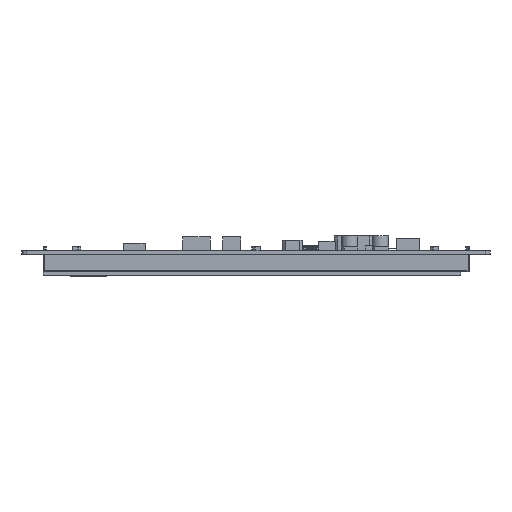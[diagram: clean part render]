
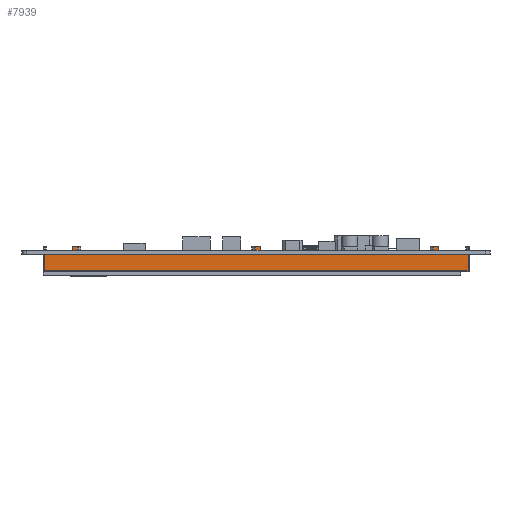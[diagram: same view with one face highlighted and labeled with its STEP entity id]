
A CAD part, left-side view. The second image highlights one B-rep face of the part: STEP entity #7939.
In plain terms, the highlighted planar face has unit normal (-1, 0, 0).
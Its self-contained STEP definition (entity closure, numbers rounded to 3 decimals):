
#5029=PLANE('',#65919);
#7939=ADVANCED_FACE('',(#11375),#5029,.T.);
#11375=FACE_OUTER_BOUND('',#14484,.T.);
#14484=EDGE_LOOP('',(#30043,#30044,#30045,#30046,#30047,#30048,#30049,#30050,
#30051,#30052,#30053,#30054,#30055,#30056,#30057,#30058,#30059,#30060,#30061,
#30062,#30063,#30064));
#30043=ORIENTED_EDGE('',*,*,#44899,.F.);
#30044=ORIENTED_EDGE('',*,*,#44900,.T.);
#30045=ORIENTED_EDGE('',*,*,#44901,.T.);
#30046=ORIENTED_EDGE('',*,*,#44902,.F.);
#30047=ORIENTED_EDGE('',*,*,#44903,.F.);
#30048=ORIENTED_EDGE('',*,*,#44904,.F.);
#30049=ORIENTED_EDGE('',*,*,#44905,.T.);
#30050=ORIENTED_EDGE('',*,*,#44906,.T.);
#30051=ORIENTED_EDGE('',*,*,#44907,.T.);
#30052=ORIENTED_EDGE('',*,*,#44896,.F.);
#30053=ORIENTED_EDGE('',*,*,#44908,.F.);
#30054=ORIENTED_EDGE('',*,*,#44909,.F.);
#30055=ORIENTED_EDGE('',*,*,#44910,.T.);
#30056=ORIENTED_EDGE('',*,*,#44911,.T.);
#30057=ORIENTED_EDGE('',*,*,#44912,.T.);
#30058=ORIENTED_EDGE('',*,*,#44892,.F.);
#30059=ORIENTED_EDGE('',*,*,#44913,.F.);
#30060=ORIENTED_EDGE('',*,*,#44914,.T.);
#30061=ORIENTED_EDGE('',*,*,#44915,.F.);
#30062=ORIENTED_EDGE('',*,*,#44916,.F.);
#30063=ORIENTED_EDGE('',*,*,#44917,.T.);
#30064=ORIENTED_EDGE('',*,*,#44890,.F.);
#36707=VERTEX_POINT('',#97788);
#36709=VERTEX_POINT('',#97792);
#36710=VERTEX_POINT('',#97796);
#36712=VERTEX_POINT('',#97799);
#36714=VERTEX_POINT('',#97805);
#36716=VERTEX_POINT('',#97808);
#36718=VERTEX_POINT('',#97814);
#36719=VERTEX_POINT('',#97816);
#36720=VERTEX_POINT('',#97818);
#36721=VERTEX_POINT('',#97820);
#36722=VERTEX_POINT('',#97822);
#36723=VERTEX_POINT('',#97824);
#36724=VERTEX_POINT('',#97826);
#36725=VERTEX_POINT('',#97828);
#36726=VERTEX_POINT('',#97831);
#36727=VERTEX_POINT('',#97833);
#36728=VERTEX_POINT('',#97835);
#36729=VERTEX_POINT('',#97837);
#36730=VERTEX_POINT('',#97840);
#36731=VERTEX_POINT('',#97842);
#36732=VERTEX_POINT('',#97844);
#36733=VERTEX_POINT('',#97846);
#44890=EDGE_CURVE('',#36709,#36707,#53678,.T.);
#44892=EDGE_CURVE('',#36710,#36712,#53680,.T.);
#44896=EDGE_CURVE('',#36714,#36716,#53684,.T.);
#44899=EDGE_CURVE('',#36718,#36709,#53687,.T.);
#44900=EDGE_CURVE('',#36718,#36719,#53688,.T.);
#44901=EDGE_CURVE('',#36719,#36720,#53689,.T.);
#44902=EDGE_CURVE('',#36721,#36720,#53690,.T.);
#44903=EDGE_CURVE('',#36722,#36721,#53691,.T.);
#44904=EDGE_CURVE('',#36723,#36722,#53692,.T.);
#44905=EDGE_CURVE('',#36723,#36724,#53693,.T.);
#44906=EDGE_CURVE('',#36724,#36725,#53694,.T.);
#44907=EDGE_CURVE('',#36725,#36716,#53695,.T.);
#44908=EDGE_CURVE('',#36726,#36714,#53696,.T.);
#44909=EDGE_CURVE('',#36727,#36726,#53697,.T.);
#44910=EDGE_CURVE('',#36727,#36728,#53698,.T.);
#44911=EDGE_CURVE('',#36728,#36729,#53699,.T.);
#44912=EDGE_CURVE('',#36729,#36712,#53700,.T.);
#44913=EDGE_CURVE('',#36730,#36710,#53701,.T.);
#44914=EDGE_CURVE('',#36730,#36731,#53702,.T.);
#44915=EDGE_CURVE('',#36732,#36731,#53703,.T.);
#44916=EDGE_CURVE('',#36733,#36732,#53704,.T.);
#44917=EDGE_CURVE('',#36733,#36707,#53705,.T.);
#53678=LINE('',#97793,#61158);
#53680=LINE('',#97798,#61160);
#53684=LINE('',#97807,#61164);
#53687=LINE('',#97813,#61167);
#53688=LINE('',#97815,#61168);
#53689=LINE('',#97817,#61169);
#53690=LINE('',#97819,#61170);
#53691=LINE('',#97821,#61171);
#53692=LINE('',#97823,#61172);
#53693=LINE('',#97825,#61173);
#53694=LINE('',#97827,#61174);
#53695=LINE('',#97829,#61175);
#53696=LINE('',#97830,#61176);
#53697=LINE('',#97832,#61177);
#53698=LINE('',#97834,#61178);
#53699=LINE('',#97836,#61179);
#53700=LINE('',#97838,#61180);
#53701=LINE('',#97839,#61181);
#53702=LINE('',#97841,#61182);
#53703=LINE('',#97843,#61183);
#53704=LINE('',#97845,#61184);
#53705=LINE('',#97847,#61185);
#61158=VECTOR('',#80133,1.);
#61160=VECTOR('',#80137,1.);
#61164=VECTOR('',#80143,1.);
#61167=VECTOR('',#80148,1.);
#61168=VECTOR('',#80149,1.);
#61169=VECTOR('',#80150,1.);
#61170=VECTOR('',#80151,1.);
#61171=VECTOR('',#80152,1.);
#61172=VECTOR('',#80153,1.);
#61173=VECTOR('',#80154,1.);
#61174=VECTOR('',#80155,1.);
#61175=VECTOR('',#80156,1.);
#61176=VECTOR('',#80157,1.);
#61177=VECTOR('',#80158,1.);
#61178=VECTOR('',#80159,1.);
#61179=VECTOR('',#80160,1.);
#61180=VECTOR('',#80161,1.);
#61181=VECTOR('',#80162,1.);
#61182=VECTOR('',#80163,1.);
#61183=VECTOR('',#80164,1.);
#61184=VECTOR('',#80165,1.);
#61185=VECTOR('',#80166,1.);
#65919=AXIS2_PLACEMENT_3D('',#97848,#80167,#80168);
#80133=DIRECTION('',(0.,-1.,0.));
#80137=DIRECTION('',(0.,-1.,0.));
#80143=DIRECTION('',(0.,-1.,0.));
#80148=DIRECTION('',(0.,0.,1.));
#80149=DIRECTION('',(0.,-1.,0.));
#80150=DIRECTION('',(0.,0.,1.));
#80151=DIRECTION('',(0.,-1.,0.));
#80152=DIRECTION('',(0.,0.,-1.));
#80153=DIRECTION('',(0.,-1.,0.));
#80154=DIRECTION('',(0.,0.,-1.));
#80155=DIRECTION('',(0.,-1.,0.));
#80156=DIRECTION('',(0.,0.,-1.));
#80157=DIRECTION('',(0.,0.,-1.));
#80158=DIRECTION('',(0.,-1.,0.));
#80159=DIRECTION('',(0.,0.,-1.));
#80160=DIRECTION('',(0.,-1.,0.));
#80161=DIRECTION('',(0.,0.,-1.));
#80162=DIRECTION('',(0.,0.,-1.));
#80163=DIRECTION('',(0.,-1.,0.));
#80164=DIRECTION('',(0.,0.,-1.));
#80165=DIRECTION('',(0.,-1.,0.));
#80166=DIRECTION('',(0.,0.,-1.));
#80167=DIRECTION('',(-1.,0.,0.));
#80168=DIRECTION('',(0.,-1.,0.));
#97788=CARTESIAN_POINT('',(-110.155,109.34,-1.6));
#97792=CARTESIAN_POINT('',(-110.155,120.865,-1.6));
#97793=CARTESIAN_POINT('',(-110.155,120.865,-1.6));
#97796=CARTESIAN_POINT('',(-110.155,107.34,-1.6));
#97798=CARTESIAN_POINT('',(-110.155,120.865,-1.6));
#97799=CARTESIAN_POINT('',(-110.155,33.463,-1.6));
#97805=CARTESIAN_POINT('',(-110.155,31.463,-1.6));
#97807=CARTESIAN_POINT('',(-110.155,120.865,-1.6));
#97808=CARTESIAN_POINT('',(-110.155,-40.462,-1.6));
#97813=CARTESIAN_POINT('',(-110.155,120.865,-8.8));
#97814=CARTESIAN_POINT('',(-110.155,120.865,-8.4));
#97815=CARTESIAN_POINT('',(-110.155,-54.535,-8.4));
#97816=CARTESIAN_POINT('',(-110.155,-54.535,-8.4));
#97817=CARTESIAN_POINT('',(-110.155,-54.535,-8.8));
#97818=CARTESIAN_POINT('',(-110.155,-54.535,-1.6));
#97819=CARTESIAN_POINT('',(-110.155,120.865,-1.6));
#97820=CARTESIAN_POINT('',(-110.155,-42.462,-1.6));
#97821=CARTESIAN_POINT('',(-110.155,-42.462,0.));
#97822=CARTESIAN_POINT('',(-110.155,-42.462,1.6));
#97823=CARTESIAN_POINT('',(-110.155,-40.344,1.6));
#97824=CARTESIAN_POINT('',(-110.155,-40.344,1.6));
#97825=CARTESIAN_POINT('',(-110.155,-40.344,1.6));
#97826=CARTESIAN_POINT('',(-110.155,-40.344,0.));
#97827=CARTESIAN_POINT('',(-110.155,-40.344,0.));
#97828=CARTESIAN_POINT('',(-110.155,-40.462,0.));
#97829=CARTESIAN_POINT('',(-110.155,-40.462,0.));
#97830=CARTESIAN_POINT('',(-110.155,31.463,0.));
#97831=CARTESIAN_POINT('',(-110.155,31.463,1.6));
#97832=CARTESIAN_POINT('',(-110.155,33.581,1.6));
#97833=CARTESIAN_POINT('',(-110.155,33.581,1.6));
#97834=CARTESIAN_POINT('',(-110.155,33.581,1.6));
#97835=CARTESIAN_POINT('',(-110.155,33.581,0.));
#97836=CARTESIAN_POINT('',(-110.155,33.581,0.));
#97837=CARTESIAN_POINT('',(-110.155,33.463,0.));
#97838=CARTESIAN_POINT('',(-110.155,33.463,0.));
#97839=CARTESIAN_POINT('',(-110.155,107.34,0.));
#97840=CARTESIAN_POINT('',(-110.155,107.34,0.));
#97841=CARTESIAN_POINT('',(-110.155,109.34,0.));
#97842=CARTESIAN_POINT('',(-110.155,107.196,0.));
#97843=CARTESIAN_POINT('',(-110.155,107.196,1.6));
#97844=CARTESIAN_POINT('',(-110.155,107.196,1.6));
#97845=CARTESIAN_POINT('',(-110.155,109.34,1.6));
#97846=CARTESIAN_POINT('',(-110.155,109.34,1.6));
#97847=CARTESIAN_POINT('',(-110.155,109.34,0.));
#97848=CARTESIAN_POINT('',(-110.155,120.865,-8.8));
